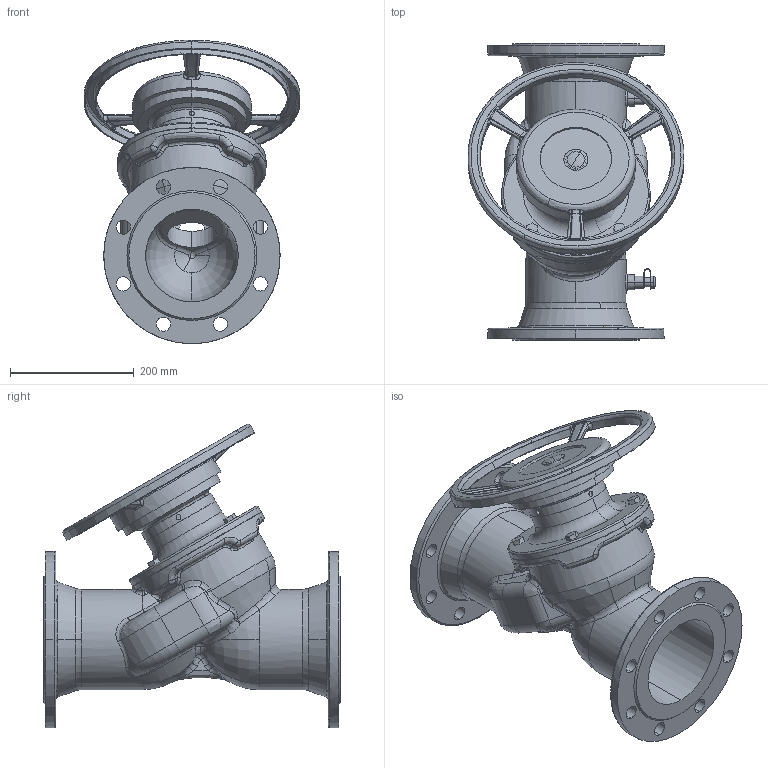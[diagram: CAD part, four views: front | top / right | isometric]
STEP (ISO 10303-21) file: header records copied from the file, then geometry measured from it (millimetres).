
FILE_DESCRIPTION (( 'STEP AP203' ), '1' );
FILE_NAME ('RC4240-DN150.STEP', '2017-04-23T08:57:49', ( 'User' ), ( 'shendu' ), 'SwSTEP 2.0', 'SolidWorks 2015', '' );
FILE_SCHEMA (( 'CONFIG_CONTROL_DESIGN' ));
Length unit declared in the file: millimetre
Products named in the file (1): RC4240-DN150
Bounding box: 349.1 x 480 x 490.58 mm (x, y, z)
Volume: 8754416.4 mm3; surface area: 1289302.6 mm2
Topology: 17 solids, 17 shells, 740 faces, 1826 edges, 1105 vertices
Faces by surface type: bspline 300, cylinder 241, plane 124, cone 39, torus 36
Entity records: 62472 total; most frequent: CARTESIAN_POINT 47226, ORIENTED_EDGE 3562, DIRECTION 2445, EDGE_CURVE 1781, VERTEX_POINT 1105, AXIS2_PLACEMENT_3D 1036, EDGE_LOOP 850, B_SPLINE_CURVE_WITH_KNOTS 754
